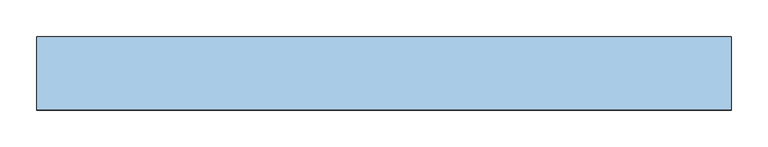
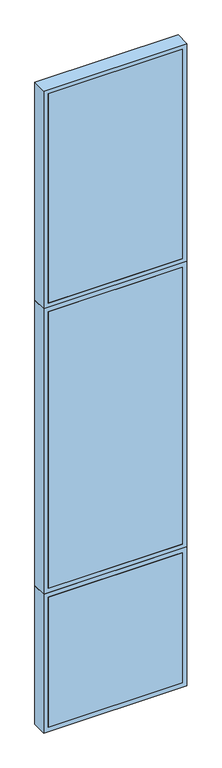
"""IFC4 building model written with IfcOpenShell, lengths in millimetres: window geometry, TRP_CP_ARC_FI_V1 : AL_P01_95."""

from ifc_helpers import new_model, si_unit, frame, origin, place, context, project, spatial, polyline, outline, extrude, source, transform, mapped, element, save


def window_f09dee8b(model_context):
    return source(origin(), model_context, "Body", "SweptSolid", [
        extrude(outline(polyline([(445.0, -50.0), (-445.0, -50.0), (-445.0, -30.0), (445.0, -30.0), (445.0, -50.0)])), frame((0.0, 0.0, 30.0), z_axis=(0.0, 0.0, 1.0), x_axis=(1.0, 0.0, 0.0)), (0.0, 0.0, 1.0), 913.0),
        extrude(outline(polyline([(973.0, 475.0), (973.0, -475.0), (0.0, -475.0), (0.0, 475.0), (973.0, 475.0)]), holes=[polyline([(30.0, 445.0), (30.0, -445.0), (943.0, -445.0), (943.0, 445.0), (30.0, 445.0)])]), frame((0.0, -50.0, 0.0), z_axis=(0.0, 1.0, 0.0), x_axis=(0.0, 0.0, 1.0)), (0.0, 0.0, 1.0), 100.0),
        extrude(outline(polyline([(2973.0, 475.0), (2973.0, -475.0), (973.0, -475.0), (973.0, 475.0), (2973.0, 475.0)]), holes=[polyline([(1003.0, 445.0), (1003.0, -445.0), (2943.0, -445.0), (2943.0, 445.0), (1003.0, 445.0)])]), frame((0.0, -50.0, 0.0), z_axis=(0.0, 1.0, 0.0), x_axis=(0.0, 0.0, 1.0)), (0.0, 0.0, 1.0), 100.0),
        extrude(outline(polyline([(445.0, -50.0), (-445.0, -50.0), (-445.0, -30.0), (445.0, -30.0), (445.0, -50.0)])), frame((0.0, 0.0, 1003.0), z_axis=(0.0, 0.0, 1.0), x_axis=(1.0, 0.0, 0.0)), (0.0, 0.0, 1.0), 1940.0),
        extrude(outline(polyline([(4500.0, 475.0), (4500.0, -475.0), (2973.0, -475.0), (2973.0, 475.0), (4500.0, 475.0)]), holes=[polyline([(3003.0, 445.0), (3003.0, -445.0), (4470.0, -445.0), (4470.0, 445.0), (3003.0, 445.0)])]), frame((0.0, -50.0, 0.0), z_axis=(0.0, 1.0, 0.0), x_axis=(0.0, 0.0, 1.0)), (0.0, 0.0, 1.0), 100.0),
        extrude(outline(polyline([(445.0, -50.0), (-445.0, -50.0), (-445.0, -30.0), (445.0, -30.0), (445.0, -50.0)])), frame((0.0, 0.0, 3003.0), z_axis=(0.0, 0.0, 1.0), x_axis=(1.0, 0.0, 0.0)), (0.0, 0.0, 1.0), 1467.0),
    ])


if __name__ == "__main__":
    model = new_model("IFC4")
    model_context = context("Model", 3, world=origin())
    ifc_project = project(units=[si_unit("LENGTHUNIT", "METRE", prefix="MILLI")], contexts=[model_context])
    site = spatial("IfcSite", under=ifc_project)
    building = spatial("IfcBuilding", under=site)
    placement = place(None, origin())
    window_shape = window_f09dee8b(model_context)
    element("IfcWindow", 1, ObjectType="TRP_CP_ARC_FI_V1 : AL_P01_95", at=placement, inside=building, context=model_context, shape_type="MappedRepresentation", body=[
        mapped(window_shape, transform((0.0, 0.0, 0.0), x_axis=(1.0, 0.0, 0.0), y_axis=(0.0, 1.0, 0.0), z_axis=(0.0, 0.0, 1.0))),
    ])
    save(model, "model.ifc")
